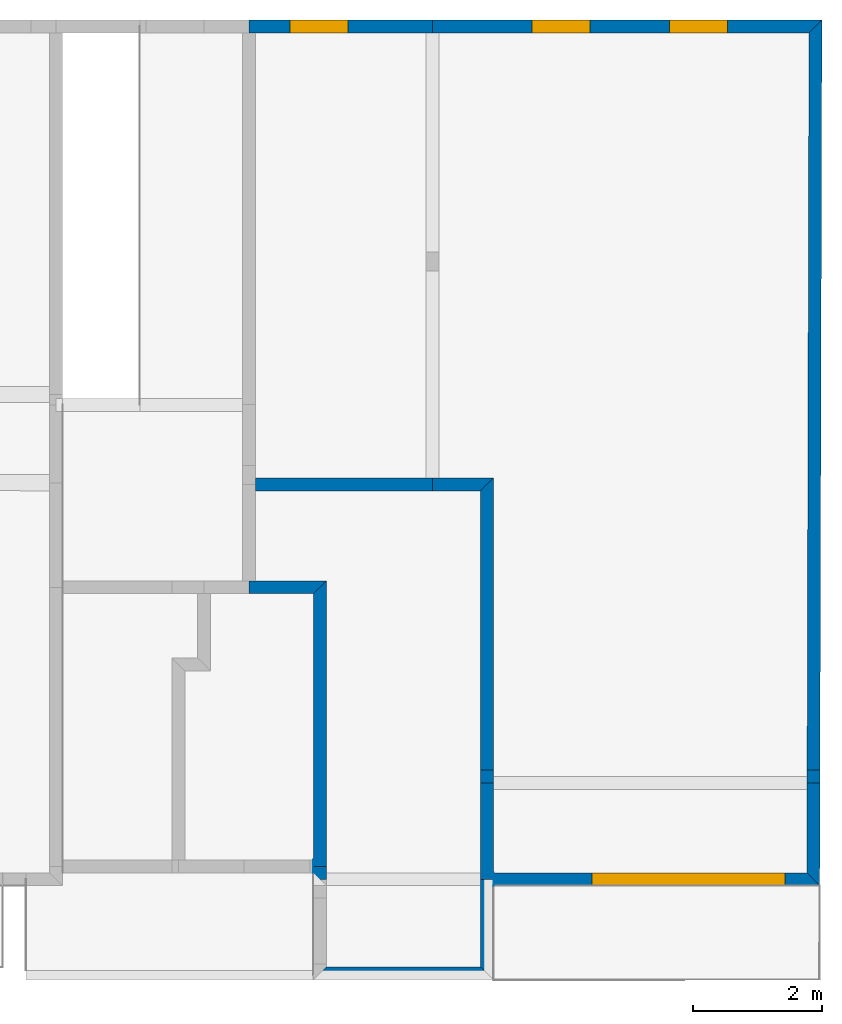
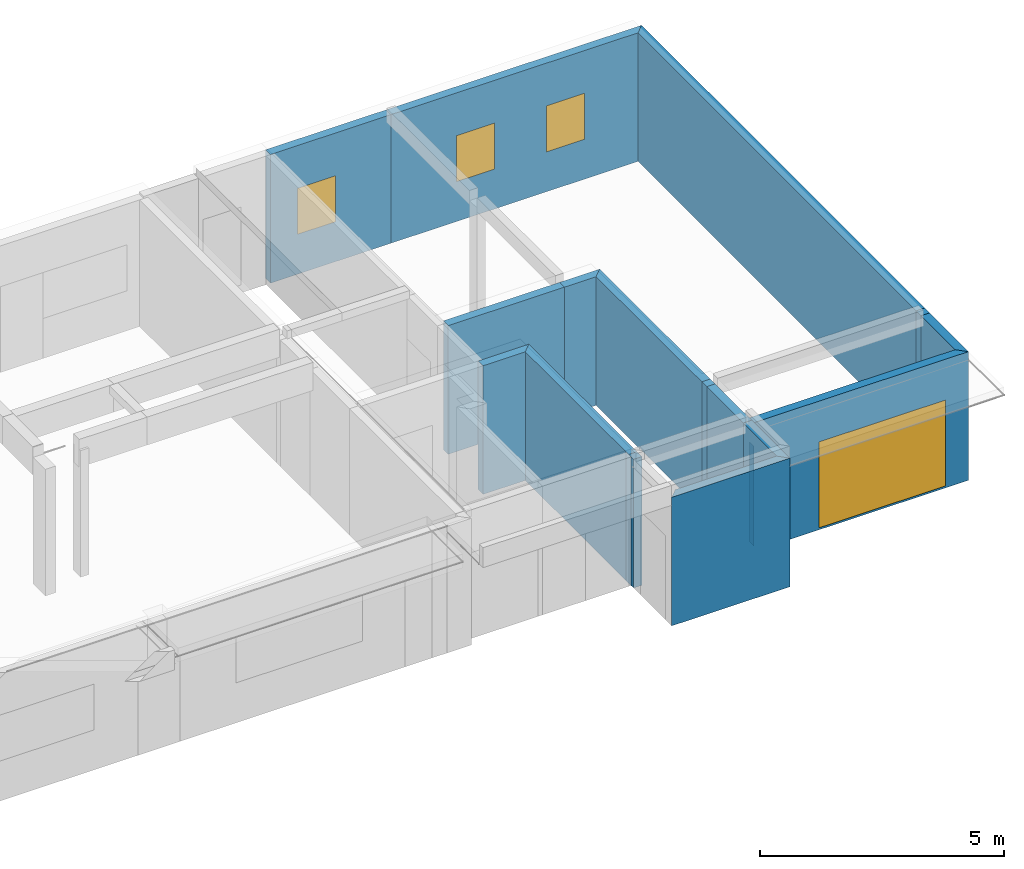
# One storey, part 16 of 17: 18 walls, 4 windows, 4 openings.
"""IFC2X3 building model written with IfcOpenShell, lengths in metres."""

from ifc_helpers import new_model, si_unit, direction, frame, origin_with_axes, origin_2d, place, context, subcontext, project, spatial, polyline, rectangle, outline, extrude, material, layer, layer_set, layer_usage, type_object, element, fill, save


model = new_model("IFC2X3")

# Units and contexts
model_context = context("Model", 3, precision=0.0001, world=origin_with_axes(), true_north=direction((0.0, 1.0)))
plan_context = context("Plan", 2, precision=0.0001, world=origin_with_axes(), true_north=direction((0.0, 1.0)))
body_context = subcontext(model_context, "Body", "Model", "MODEL_VIEW")
ifc_project = project(units=[si_unit("MASSUNIT", "GRAM", prefix="KILO"), si_unit("AREAUNIT", "SQUARE_METRE"), si_unit("LENGTHUNIT", "METRE"), si_unit("VOLUMEUNIT", "CUBIC_METRE")], contexts=[plan_context, model_context])

# Site, building, storey
site_placement = place(None, origin_with_axes())
site = spatial("IfcSite", under=ifc_project, at=site_placement, Name="$", CompositionType="ELEMENT")
building_placement = place(site_placement, origin_with_axes())
building = spatial("IfcBuilding", under=site, at=building_placement, Name="Classeur ENS Ensemble", CompositionType="ELEMENT")
storey_placement = place(building_placement, frame((-20.30778888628, -1.812671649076, 0.0), z_axis=(0.0, 0.0, 1.0), x_axis=(1.0, 0.0, 0.0)))
storey = spatial("IfcBuildingStorey", under=building, at=storey_placement, Name="001 RdC", CompositionType="ELEMENT", Elevation=0.0)

# Walls
ifc_material_1 = material(Name="voile BA 20 cm")
ifc_layer_1 = layer(ifc_material_1, 0.2000000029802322)
ifc_layer_set_1 = layer_set([ifc_layer_1], Name="voile BA 20 cm+")
ifc_layer_usage_1 = layer_usage(ifc_layer_set_1, "AXIS2", "POSITIVE", -0.1000000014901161)
wall_type = type_object("IfcWallType", PredefinedType="STANDARD")
wall_1_placement = place(storey_placement, frame((43.15502864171, -11.56732835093, -0.119999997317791), z_axis=(0.0, 0.0, 1.0), x_axis=(0.002544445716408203, 0.9999967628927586, 0.0)))
element("IfcWall", 1, at=wall_1_placement, inside=storey, type_object=wall_type, material=ifc_layer_usage_1, Name="voile BA 20 cm", context=body_context, shape_type="SweptSolid", held_by="IfcProductRepresentation", body=[
    extrude(outline(polyline([(0.09974587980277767, 0.1000000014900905), (0.09974587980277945, 0.1000000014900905), (0.09974587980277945, 0.1000000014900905), (1.499601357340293, 0.1000000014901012), (1.499601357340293, 0.1000000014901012), (1.499601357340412, 0.1000000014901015), (1.499601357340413, -0.1000000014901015), (1.499601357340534, -0.1000000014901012), (1.499601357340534, -0.1000000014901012), (-0.09974587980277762, -0.1000000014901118), (-0.09974587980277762, -0.1000000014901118), (-0.09974587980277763, -0.1000000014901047), (0.09974587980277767, 0.1000000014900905)])), origin_with_axes(), (0.0, 0.0, 1.0), 3.220000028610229),
])
ifc_material_2 = material(Name="voile BA 20 cm")
ifc_layer_2 = layer(ifc_material_2, 0.2000000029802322)
ifc_layer_set_2 = layer_set([ifc_layer_2], Name="voile BA 20 cm+")
ifc_layer_usage_2 = layer_usage(ifc_layer_set_2, "AXIS2", "POSITIVE", -0.1000000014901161)
wall_2_placement = place(storey_placement, frame((38.08329531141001, -11.56732835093, 0.0), z_axis=(0.0, 0.0, 1.0), x_axis=(1.0, 0.0, 0.0)))
element("IfcWall", 2, at=wall_2_placement, inside=storey, type_object=wall_type, material=ifc_layer_usage_2, Name="voile BA 20 cm", context=body_context, shape_type="SweptSolid", held_by="IfcProductRepresentation", body=[
    extrude(outline(polyline([(0.1000000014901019, 0.1000000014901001), (0.1000000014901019, 0.1000000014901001), (0.1000000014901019, 0.1000000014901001), (0.09999999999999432, 0.1000000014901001), (0.09999999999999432, 0.1000000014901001), (0.09999999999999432, 0.1000000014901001), (0.09999999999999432, -0.1000000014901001), (0.09999999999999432, -0.1000000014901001), (0.09999999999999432, -0.1000000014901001), (0.1000000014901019, -0.1000000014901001), (0.1000000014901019, -0.1000000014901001), (0.1000000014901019, -0.1000000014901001), (0.1000000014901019, 0.1000000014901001)])), origin_with_axes(), (0.0, 0.0, 1.0), 2.5),
])
ifc_material_3 = material(Name="voile BA 20 cm")
ifc_layer_3 = layer(ifc_material_3, 0.2000000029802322)
ifc_layer_set_3 = layer_set([ifc_layer_3], Name="voile BA 20 cm+")
ifc_layer_usage_3 = layer_usage(ifc_layer_set_3, "AXIS2", "POSITIVE", -0.1000000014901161)
wall_3_placement = place(storey_placement, frame((38.08329531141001, -13.03232835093, -0.119999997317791), z_axis=(0.0, 0.0, 1.0), x_axis=(0.0, 1.0, 0.0)))
element("IfcWall", 3, at=wall_3_placement, inside=storey, type_object=wall_type, material=ifc_layer_usage_3, Name="voile BA 20 cm", context=body_context, shape_type="SweptSolid", held_by="IfcProductRepresentation", body=[
    extrude(outline(polyline([(0.1000000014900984, 0.1000000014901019), (0.1000000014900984, 0.1000000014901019), (0.1000000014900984, 0.1000000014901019), (1.465, 0.1000000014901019), (1.465, 0.1000000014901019), (1.465, 0.1000000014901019), (1.465, -0.1000000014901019), (1.3649999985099, -0.1000000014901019), (1.3649999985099, -0.1000000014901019), (-0.1000000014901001, -0.1000000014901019), (-0.1000000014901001, -0.1000000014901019), (-0.1000000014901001, -0.1000000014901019), (0.1000000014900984, 0.1000000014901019)])), origin_with_axes(), (0.0, 0.0, 1.0), 3.220000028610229),
])
ifc_material_4 = material(Name="voile BA 20 cm")
ifc_layer_4 = layer(ifc_material_4, 0.2000000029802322)
ifc_layer_set_4 = layer_set([ifc_layer_4], Name="voile BA 20 cm+")
ifc_layer_usage_4 = layer_usage(ifc_layer_set_4, "AXIS2", "POSITIVE", -0.1000000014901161)
wall_4_placement = place(storey_placement, frame((35.48329531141, -13.03232835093, -0.119999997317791), z_axis=(0.0, 0.0, 1.0), x_axis=(1.0, 0.0, 0.0)))
element("IfcWall", 4, at=wall_4_placement, inside=storey, type_object=wall_type, material=ifc_layer_usage_4, Name="voile BA 20 cm", context=body_context, shape_type="SweptSolid", held_by="IfcProductRepresentation", body=[
    extrude(outline(polyline([(0.1000000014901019, 0.1000000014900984), (0.1000000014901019, 0.1000000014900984), (0.1000000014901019, 0.1000000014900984), (2.4999999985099, 0.1000000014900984), (2.4999999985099, 0.1000000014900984), (2.4999999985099, 0.1000000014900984), (2.700000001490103, -0.1000000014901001), (2.700000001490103, -0.1000000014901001), (2.700000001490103, -0.1000000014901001), (-0.1000000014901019, -0.1000000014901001), (-0.1000000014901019, -0.1000000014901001), (-0.1000000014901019, -0.1000000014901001), (0.1000000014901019, 0.1000000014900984)])), origin_with_axes(), (0.0, 0.0, 1.0), 3.220000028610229),
])

# Wall, opening, window
ifc_material_5 = material(Name="voile BA 20 cm")
ifc_layer_5 = layer(ifc_material_5, 0.2000000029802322)
ifc_layer_set_5 = layer_set([ifc_layer_5], Name="voile BA 20 cm+")
ifc_layer_usage_5 = layer_usage(ifc_layer_set_5, "AXIS2", "POSITIVE", -0.1000000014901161)
wall_5_placement = place(storey_placement, frame((34.38329531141, 1.692671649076, -0.119999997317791), z_axis=(0.0, 0.0, 1.0), x_axis=(0.9999999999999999, 0.0, 0.0)))
wall_5 = element("IfcWall", 5, at=wall_5_placement, inside=storey, type_object=wall_type, material=ifc_layer_usage_5, Name="voile BA 20 cm", context=body_context, shape_type="SweptSolid", held_by="IfcProductRepresentation", body=[
    extrude(outline(polyline([(0.0, 0.1000000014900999), (0.0, 0.1000000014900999), (0.0, 0.1000000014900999), (2.849999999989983, 0.1000000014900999), (2.849999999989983, 0.1000000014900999), (2.849999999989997, 0.1000000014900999), (2.849999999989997, -0.1000000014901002), (2.849999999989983, -0.1000000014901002), (2.849999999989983, -0.1000000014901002), (0.1000000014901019, -0.1000000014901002), (0.1000000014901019, -0.1000000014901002), (0.0, -0.1000000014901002), (0.0, 0.1000000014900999)])), origin_with_axes(), (0.0, 0.0, 1.0), 3.220000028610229),
])
opening_1_placement = place(wall_5_placement, frame((1.088367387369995, 0.1000000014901, 0.999999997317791), z_axis=(0.0, 0.0, 1.0), x_axis=(1.0, 0.0, 0.0)))
opening_1 = element("IfcOpeningElement", 6, at=opening_1_placement, cuts=wall_5, Name="BL 90 x 115", context=body_context, shape_type="SweptSolid", held_by="IfcProductRepresentation", body=[
    extrude(rectangle(XDim=0.8999999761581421, YDim=1.149999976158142, at=origin_2d()), frame((0.0, 0.0, 0.574999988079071), z_axis=(0.0, -1.0, 0.0), x_axis=(1.0, 0.0, 0.0)), (0.0, 0.0, 1.0), 0.2000000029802),
])
window_1_placement = place(opening_1_placement, origin_with_axes())
window_1 = element("IfcWindow", 7, at=window_1_placement, inside=storey, Name="BL 90 x 115", OverallHeight=1.149999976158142, OverallWidth=0.8999999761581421, context=body_context, shape_type="SweptSolid", held_by="IfcProductRepresentation", body=[
    extrude(rectangle(XDim=0.8999999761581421, YDim=1.149999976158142, at=origin_2d()), frame((0.0, 0.0, 0.574999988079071), z_axis=(0.0, -1.0, 0.0), x_axis=(1.0, 0.0, 0.0)), (0.0, 0.0, 1.0), 0.2000000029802),
])
fill(opening_1, window_1)

# Walls
ifc_material_6 = material(Name="voile BA 20 cm")
ifc_layer_6 = layer(ifc_material_6, 0.2000000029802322)
ifc_layer_set_6 = layer_set([ifc_layer_6], Name="voile BA 20 cm+")
ifc_layer_usage_6 = layer_usage(ifc_layer_set_6, "AXIS2", "POSITIVE", -0.1000000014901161)
wall_6_placement = place(storey_placement, frame((38.08329531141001, -11.56732835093, -0.119999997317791), z_axis=(0.0, 0.0, 1.0), x_axis=(0.0, 1.0, 0.0)))
element("IfcWall", 8, at=wall_6_placement, inside=storey, type_object=wall_type, material=ifc_layer_usage_6, Name="voile BA 20 cm", context=body_context, shape_type="SweptSolid", held_by="IfcProductRepresentation", body=[
    extrude(outline(polyline([(0.0, 0.1000000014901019), (0.0, 0.1000000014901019), (0.0, 0.1000000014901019), (1.49959650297, 0.1000000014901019), (1.49959650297, 0.1000000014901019), (1.49959650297, 0.1000000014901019), (1.49959650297, -0.1000000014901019), (1.49959650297, -0.1000000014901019), (1.49959650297, -0.1000000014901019), (0.1000000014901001, -0.1000000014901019), (0.1000000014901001, -0.1000000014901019), (0.0, -0.1000000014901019), (0.0, 0.1000000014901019)])), origin_with_axes(), (0.0, 0.0, 1.0), 3.220000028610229),
])
ifc_material_7 = material(Name="voile BA 20 cm")
ifc_layer_7 = layer(ifc_material_7, 0.2000000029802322)
ifc_layer_set_7 = layer_set([ifc_layer_7], Name="voile BA 20 cm+")
ifc_layer_usage_7 = layer_usage(ifc_layer_set_7, "AXIS2", "POSITIVE", -0.1000000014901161)
wall_7_placement = place(storey_placement, frame((34.38329531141, -5.427328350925, -0.119999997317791), z_axis=(0.0, 0.0, 1.0), x_axis=(1.0, 0.0, 0.0)))
element("IfcWall", 9, at=wall_7_placement, inside=storey, type_object=wall_type, material=ifc_layer_usage_7, Name="voile BA 20 cm", context=body_context, shape_type="SweptSolid", held_by="IfcProductRepresentation", body=[
    extrude(outline(polyline([(0.1000000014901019, 0.1000000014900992), (0.1000000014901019, 0.1000000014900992), (0.1000000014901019, 0.1000000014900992), (2.84999999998, 0.1000000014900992), (2.84999999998, 0.1000000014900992), (2.84999999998, 0.1000000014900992), (2.84999999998, -0.1000000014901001), (2.84999999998, -0.1000000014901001), (2.84999999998, -0.1000000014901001), (0.1000000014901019, -0.1000000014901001), (0.1000000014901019, -0.1000000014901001), (0.1000000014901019, -0.1000000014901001), (0.1000000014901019, 0.1000000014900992)])), origin_with_axes(), (0.0, 0.0, 1.0), 3.220000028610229),
])
ifc_material_8 = material(Name="voile BA 20 cm")
ifc_layer_8 = layer(ifc_material_8, 0.2000000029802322)
ifc_layer_set_8 = layer_set([ifc_layer_8], Name="voile BA 20 cm+")
ifc_layer_usage_8 = layer_usage(ifc_layer_set_8, "AXIS2", "POSITIVE", -0.1000000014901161)
wall_8_placement = place(storey_placement, frame((35.48329531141, -11.36732835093, -0.119999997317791), z_axis=(0.0, 0.0, 1.0), x_axis=(0.0, 1.0, 0.0)))
element("IfcWall", 10, at=wall_8_placement, inside=storey, type_object=wall_type, material=ifc_layer_usage_8, Name="voile BA 20 cm", context=body_context, shape_type="SweptSolid", held_by="IfcProductRepresentation", body=[
    extrude(outline(polyline([(0.0, 0.1000000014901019), (0.1000000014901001, 0.1000000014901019), (0.1000000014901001, 0.1000000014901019), (4.2399999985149, 0.1000000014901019), (4.2399999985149, 0.1000000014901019), (4.2399999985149, 0.1000000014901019), (4.4400000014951, -0.1000000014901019), (4.4400000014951, -0.1000000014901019), (4.4400000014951, -0.1000000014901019), (0.0, -0.1000000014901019), (0.0, -0.1000000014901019), (0.0, -0.1000000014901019), (0.0, 0.1000000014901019)])), origin_with_axes(), (0.0, 0.0, 1.0), 3.220000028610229),
])
ifc_material_9 = material(Name="voile BA 20 cm")
ifc_layer_9 = layer(ifc_material_9, 0.2000000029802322)
ifc_layer_set_9 = layer_set([ifc_layer_9], Name="voile BA 20 cm+")
ifc_layer_usage_9 = layer_usage(ifc_layer_set_9, "AXIS2", "POSITIVE", -0.1000000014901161)
wall_9_placement = place(storey_placement, frame((43.15935421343, -9.867328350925, -0.119999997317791), z_axis=(0.0, 0.0, 1.0), x_axis=(0.00254444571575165, 0.9999967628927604, 0.0)))
element("IfcWall", 11, at=wall_9_placement, inside=storey, type_object=wall_type, material=ifc_layer_usage_9, Name="voile BA 20 cm", context=body_context, shape_type="SweptSolid", held_by="IfcProductRepresentation", body=[
    extrude(outline(polyline([(7.19910242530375e-17, 0.1000000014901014), (-5.67531590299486e-14, 0.1000000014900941), (-5.67531590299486e-14, 0.1000000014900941), (11.45978265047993, 0.1000000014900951), (11.45978265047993, 0.1000000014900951), (11.45978265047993, 0.1000000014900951), (11.66029219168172, -0.1000000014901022), (11.66029219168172, -0.1000000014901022), (11.66029219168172, -0.1000000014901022), (5.497680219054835e-14, -0.1000000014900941), (5.497680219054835e-14, -0.1000000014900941), (-7.19910242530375e-17, -0.1000000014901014), (7.19910242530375e-17, 0.1000000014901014)])), origin_with_axes(), (0.0, 0.0, 1.0), 3.220000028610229),
])
ifc_material_10 = material(Name="voile BA 20 cm")
ifc_layer_10 = layer(ifc_material_10, 0.2000000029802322)
ifc_layer_set_10 = layer_set([ifc_layer_10], Name="voile BA 20 cm+")
ifc_layer_usage_10 = layer_usage(ifc_layer_set_10, "AXIS2", "POSITIVE", -0.1000000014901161)
wall_10_placement = place(storey_placement, frame((38.08329531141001, -9.867328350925, -0.119999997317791), z_axis=(0.0, 0.0, 1.0), x_axis=(0.0, 1.0, 0.0)))
element("IfcWall", 12, at=wall_10_placement, inside=storey, type_object=wall_type, material=ifc_layer_usage_10, Name="voile BA 20 cm", context=body_context, shape_type="SweptSolid", held_by="IfcProductRepresentation", body=[
    extrude(outline(polyline([(0.0, 0.1000000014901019), (0.0, 0.1000000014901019), (0.0, 0.1000000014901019), (4.339999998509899, 0.1000000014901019), (4.339999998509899, 0.1000000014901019), (4.339999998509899, 0.1000000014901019), (4.540000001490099, -0.1000000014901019), (4.540000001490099, -0.1000000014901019), (4.540000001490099, -0.1000000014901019), (0.0, -0.1000000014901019), (0.0, -0.1000000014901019), (0.0, -0.1000000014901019), (0.0, 0.1000000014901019)])), origin_with_axes(), (0.0, 0.0, 1.0), 3.220000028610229),
])
ifc_material_11 = material(Name="voile BA 20 cm")
ifc_layer_11 = layer(ifc_material_11, 0.2000000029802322)
ifc_layer_set_11 = layer_set([ifc_layer_11], Name="voile BA 20 cm+")
ifc_layer_usage_11 = layer_usage(ifc_layer_set_11, "AXIS2", "POSITIVE", -0.1000000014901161)
wall_11_placement = place(storey_placement, frame((37.23329531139, -5.427328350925, -0.119999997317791), z_axis=(0.0, 0.0, 1.0), x_axis=(1.0, 0.0, 0.0)))
element("IfcWall", 13, at=wall_11_placement, inside=storey, type_object=wall_type, material=ifc_layer_usage_11, Name="voile BA 20 cm", context=body_context, shape_type="SweptSolid", held_by="IfcProductRepresentation", body=[
    extrude(outline(polyline([(0.0, 0.1000000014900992), (0.0, 0.1000000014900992), (0.0, 0.1000000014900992), (0.9500000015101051, 0.1000000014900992), (0.9500000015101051, 0.1000000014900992), (0.9500000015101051, 0.1000000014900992), (0.7499999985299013, -0.1000000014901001), (0.7499999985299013, -0.1000000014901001), (0.7499999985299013, -0.1000000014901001), (0.0, -0.1000000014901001), (0.0, -0.1000000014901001), (0.0, -0.1000000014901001), (0.0, 0.1000000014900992)])), origin_with_axes(), (0.0, 0.0, 1.0), 3.220000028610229),
])

# Wall, openings, windows
ifc_material_12 = material(Name="voile BA 20 cm")
ifc_layer_12 = layer(ifc_material_12, 0.2000000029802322)
ifc_layer_set_12 = layer_set([ifc_layer_12], Name="voile BA 20 cm+")
ifc_layer_usage_12 = layer_usage(ifc_layer_set_12, "AXIS2", "POSITIVE", -0.1000000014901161)
wall_12_placement = place(storey_placement, frame((37.2332953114, 1.692671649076, -0.119999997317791), z_axis=(0.0, 0.0, 1.0), x_axis=(1.0, -1.679277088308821e-13, 0.0)))
wall_12 = element("IfcWall", 14, at=wall_12_placement, inside=storey, type_object=wall_type, material=ifc_layer_usage_12, Name="voile BA 20 cm", context=body_context, shape_type="SweptSolid", held_by="IfcProductRepresentation", body=[
    extrude(outline(polyline([(-2.581916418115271e-15, 0.1000000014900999), (-1.679277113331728e-14, 0.1000000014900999), (-1.679277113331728e-14, 0.1000000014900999), (6.055727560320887, 0.1000000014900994), (6.055727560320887, 0.1000000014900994), (6.055727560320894, 0.1000000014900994), (5.855218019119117, -0.1000000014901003), (5.855218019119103, -0.1000000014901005), (5.855218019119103, -0.1000000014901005), (1.679277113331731e-14, -0.1000000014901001), (1.679277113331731e-14, -0.1000000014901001), (2.581916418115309e-15, -0.1000000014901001), (-2.581916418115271e-15, 0.1000000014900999)])), origin_with_axes(), (0.0, 0.0, 1.0), 3.220000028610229),
])
opening_2_placement = place(wall_12_placement, frame((2.002129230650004, 0.1000000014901, 0.999999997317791), z_axis=(0.0, 0.0, 1.0), x_axis=(1.0, 0.0, 0.0)))
opening_2 = element("IfcOpeningElement", 15, at=opening_2_placement, cuts=wall_12, Name="BL 90 x 115", context=body_context, shape_type="SweptSolid", held_by="IfcProductRepresentation", body=[
    extrude(rectangle(XDim=0.8999999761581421, YDim=1.149999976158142, at=origin_2d()), frame((0.0, 0.0, 0.574999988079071), z_axis=(0.0, -1.0, 0.0), x_axis=(1.0, 0.0, 0.0)), (0.0, 0.0, 1.0), 0.2000000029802),
])
opening_3_placement = place(wall_12_placement, frame((4.137470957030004, 0.1000000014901, 0.999999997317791), z_axis=(0.0, 0.0, 1.0), x_axis=(1.0, 0.0, 0.0)))
opening_3 = element("IfcOpeningElement", 16, at=opening_3_placement, cuts=wall_12, Name="BL 90 x 115", context=body_context, shape_type="SweptSolid", held_by="IfcProductRepresentation", body=[
    extrude(rectangle(XDim=0.8999999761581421, YDim=1.149999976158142, at=origin_2d()), frame((0.0, 0.0, 0.574999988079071), z_axis=(0.0, -1.0, 0.0), x_axis=(1.0, 0.0, 0.0)), (0.0, 0.0, 1.0), 0.2000000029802),
])
window_2_placement = place(opening_2_placement, origin_with_axes())
window_2 = element("IfcWindow", 17, at=window_2_placement, inside=storey, Name="BL 90 x 115", OverallHeight=1.149999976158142, OverallWidth=0.8999999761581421, context=body_context, shape_type="SweptSolid", held_by="IfcProductRepresentation", body=[
    extrude(rectangle(XDim=0.8999999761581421, YDim=1.149999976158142, at=origin_2d()), frame((0.0, 0.0, 0.574999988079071), z_axis=(0.0, -1.0, 0.0), x_axis=(1.0, 0.0, 0.0)), (0.0, 0.0, 1.0), 0.2000000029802),
])
fill(opening_2, window_2)
window_3_placement = place(opening_3_placement, origin_with_axes())
window_3 = element("IfcWindow", 18, at=window_3_placement, inside=storey, Name="BL 90 x 115", OverallHeight=1.149999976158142, OverallWidth=0.8999999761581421, context=body_context, shape_type="SweptSolid", held_by="IfcProductRepresentation", body=[
    extrude(rectangle(XDim=0.8999999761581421, YDim=1.149999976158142, at=origin_2d()), frame((0.0, 0.0, 0.574999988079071), z_axis=(0.0, -1.0, 0.0), x_axis=(1.0, 0.0, 0.0)), (0.0, 0.0, 1.0), 0.2000000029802),
])
fill(opening_3, window_3)

# Wall, opening, window
ifc_material_13 = material(Name="voile BA 20 cm")
ifc_layer_13 = layer(ifc_material_13, 0.2000000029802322)
ifc_layer_set_13 = layer_set([ifc_layer_13], Name="voile BA 20 cm+")
ifc_layer_usage_13 = layer_usage(ifc_layer_set_13, "AXIS2", "POSITIVE", -0.1000000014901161)
wall_13_placement = place(storey_placement, frame((38.18329531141, -11.56732835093, -0.119999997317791), z_axis=(0.0, 0.0, 1.0), x_axis=(1.0, 0.0, 0.0)))
wall_13 = element("IfcWall", 19, at=wall_13_placement, inside=storey, type_object=wall_type, material=ifc_layer_usage_13, Name="voile BA 20 cm", context=body_context, shape_type="SweptSolid", held_by="IfcProductRepresentation", body=[
    extrude(outline(polyline([(0.0, 0.1000000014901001), (0.0, 0.1000000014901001), (0.0, 0.1000000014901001), (4.871987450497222, 0.1000000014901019), (4.871987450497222, 0.1000000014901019), (4.87198745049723, 0.1000000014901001), (5.071479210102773, -0.1000000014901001), (5.071479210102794, -0.1000000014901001), (5.071479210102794, -0.1000000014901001), (0.0, -0.1000000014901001), (0.0, -0.1000000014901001), (0.0, -0.1000000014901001), (0.0, 0.1000000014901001)])), origin_with_axes(), (0.0, 0.0, 1.0), 3.220000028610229),
])
opening_4_placement = place(wall_13_placement, frame((3.031749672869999, 0.1000000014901, 0.04999999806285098), z_axis=(0.0, 0.0, 1.0), x_axis=(1.0, 0.0, 0.0)))
opening_4 = element("IfcOpeningElement", 20, at=opening_4_placement, cuts=wall_13, Name="BL 300 x 215", context=body_context, shape_type="SweptSolid", held_by="IfcProductRepresentation", body=[
    extrude(rectangle(XDim=3.0, YDim=2.150000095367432, at=origin_2d()), frame((0.0, 0.0, 1.075000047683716), z_axis=(0.0, -1.0, 0.0), x_axis=(1.0, 0.0, 0.0)), (0.0, 0.0, 1.0), 0.2000000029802),
])
window_4_placement = place(opening_4_placement, origin_with_axes())
window_4 = element("IfcWindow", 21, at=window_4_placement, inside=storey, Name="BL 300 x 215", OverallHeight=2.150000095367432, OverallWidth=3.0, context=body_context, shape_type="SweptSolid", held_by="IfcProductRepresentation", body=[
    extrude(rectangle(XDim=3.0, YDim=2.150000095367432, at=origin_2d()), frame((0.0, 0.0, 1.075000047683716), z_axis=(0.0, -1.0, 0.0), x_axis=(1.0, 0.0, 0.0)), (0.0, 0.0, 1.0), 0.2000000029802),
])
fill(opening_4, window_4)

# Walls
ifc_material_14 = material(Name="voile BA 20 cm")
ifc_layer_14 = layer(ifc_material_14, 0.2000000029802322)
ifc_layer_set_14 = layer_set([ifc_layer_14], Name="voile BA 20 cm+")
ifc_layer_usage_14 = layer_usage(ifc_layer_set_14, "AXIS2", "POSITIVE", -0.1000000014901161)
wall_14_placement = place(storey_placement, frame((43.15884429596, -10.06773184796, -0.119999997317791), z_axis=(0.0, 0.0, 1.0), x_axis=(0.002544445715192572, 0.9999967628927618, 0.0)))
element("IfcWall", 22, at=wall_14_placement, inside=storey, type_object=wall_type, material=ifc_layer_usage_14, Name="voile BA 20 cm", context=body_context, shape_type="SweptSolid", held_by="IfcProductRepresentation", body=[
    extrude(outline(polyline([(9.130608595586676e-16, 0.1000000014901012), (1.199285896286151e-13, 0.1000000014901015), (1.199285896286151e-13, 0.1000000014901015), (0.2004041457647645, 0.1000000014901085), (0.2004041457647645, 0.1000000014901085), (0.2004041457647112, 0.1000000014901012), (0.2004041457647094, -0.1000000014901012), (0.2004041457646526, -0.1000000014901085), (0.2004041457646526, -0.1000000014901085), (-1.217230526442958e-13, -0.1000000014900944), (-1.217230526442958e-13, -0.1000000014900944), (-9.130608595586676e-16, -0.1000000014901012), (9.130608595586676e-16, 0.1000000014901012)])), origin_with_axes(), (0.0, 0.0, 1.0), 3.220000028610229),
])
ifc_material_15 = material(Name="voile BA 20 cm")
ifc_layer_15 = layer(ifc_material_15, 0.2000000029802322)
ifc_layer_set_15 = layer_set([ifc_layer_15], Name="voile BA 20 cm+")
ifc_layer_usage_15 = layer_usage(ifc_layer_set_15, "AXIS2", "POSITIVE", -0.1000000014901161)
wall_15_placement = place(storey_placement, frame((38.08329531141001, -10.06773184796, -0.119999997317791), z_axis=(0.0, 0.0, 1.0), x_axis=(0.0, 0.9999999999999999, 0.0)))
element("IfcWall", 23, at=wall_15_placement, inside=storey, type_object=wall_type, material=ifc_layer_usage_15, Name="voile BA 20 cm", context=body_context, shape_type="SweptSolid", held_by="IfcProductRepresentation", body=[
    extrude(outline(polyline([(0.0, 0.1000000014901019), (0.0, 0.1000000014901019), (0.0, 0.1000000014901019), (0.2004034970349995, 0.1000000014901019), (0.2004034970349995, 0.1000000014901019), (0.2004034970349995, 0.1000000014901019), (0.2004034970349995, -0.1000000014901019), (0.2004034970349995, -0.1000000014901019), (0.2004034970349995, -0.1000000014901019), (0.0, -0.1000000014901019), (0.0, -0.1000000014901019), (0.0, -0.1000000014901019), (0.0, 0.1000000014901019)])), origin_with_axes(), (0.0, 0.0, 1.0), 3.220000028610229),
])
ifc_material_16 = material(Name="voile BA 20 cm")
ifc_layer_16 = layer(ifc_material_16, 0.2000000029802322)
ifc_layer_set_16 = layer_set([ifc_layer_16], Name="voile BA 20 cm+")
ifc_layer_usage_16 = layer_usage(ifc_layer_set_16, "AXIS2", "POSITIVE", -0.1000000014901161)
wall_16_placement = place(storey_placement, frame((34.38329531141, -7.027328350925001, -0.119999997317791), z_axis=(0.0, 0.0, 1.0), x_axis=(1.0, 0.0, 0.0)))
element("IfcWall", 24, at=wall_16_placement, inside=storey, type_object=wall_type, material=ifc_layer_usage_16, Name="voile BA 20 cm", context=body_context, shape_type="SweptSolid", held_by="IfcProductRepresentation", body=[
    extrude(outline(polyline([(0.0, 0.1000000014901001), (0.1000000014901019, 0.1000000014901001), (0.1000000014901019, 0.1000000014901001), (1.200000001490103, 0.1000000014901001), (1.200000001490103, 0.1000000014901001), (1.200000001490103, 0.1000000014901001), (0.9999999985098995, -0.1000000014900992), (0.9999999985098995, -0.1000000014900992), (0.9999999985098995, -0.1000000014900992), (0.0, -0.1000000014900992), (0.0, -0.1000000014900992), (0.0, -0.1000000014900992), (0.0, 0.1000000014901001)])), origin_with_axes(), (0.0, 0.0, 1.0), 3.220000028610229),
])
ifc_material_17 = material(Name="voile BA 20 cm")
ifc_layer_17 = layer(ifc_material_17, 0.2000000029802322)
ifc_layer_set_17 = layer_set([ifc_layer_17], Name="voile BA 20 cm+")
ifc_layer_usage_17 = layer_usage(ifc_layer_set_17, "AXIS2", "POSITIVE", -0.1000000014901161)
wall_17_placement = place(storey_placement, frame((35.3832953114, -11.36732835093, -0.119999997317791), z_axis=(0.0, 0.0, 1.0), x_axis=(1.0, 0.0, 0.0)))
element("IfcWall", 25, at=wall_17_placement, inside=storey, type_object=wall_type, material=ifc_layer_usage_17, Name="voile BA 20 cm", context=body_context, shape_type="SweptSolid", held_by="IfcProductRepresentation", body=[
    extrude(outline(polyline([(0.0, 0.1000000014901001), (0.0, 0.1000000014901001), (0.0, 0.1000000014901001), (-1.480096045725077e-09, 0.1000000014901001), (-1.480096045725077e-09, 0.1000000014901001), (-1.480096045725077e-09, 0.1000000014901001), (-1.480096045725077e-09, -0.1000000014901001), (-1.480096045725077e-09, -0.1000000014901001), (-1.480096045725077e-09, -0.1000000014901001), (0.0, -0.1000000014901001), (0.0, -0.1000000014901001), (0.0, -0.1000000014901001), (0.0, 0.1000000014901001)])), origin_with_axes(), (0.0, 0.0, 1.0), 3.220000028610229),
])
ifc_material_18 = material(Name="voile BA 20 cm")
ifc_layer_18 = layer(ifc_material_18, 0.2000000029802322)
ifc_layer_set_18 = layer_set([ifc_layer_18], Name="voile BA 20 cm+")
ifc_layer_usage_18 = layer_usage(ifc_layer_set_18, "AXIS2", "POSITIVE", -0.1000000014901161)
wall_18_placement = place(storey_placement, frame((35.48329531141, -11.56732835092, -0.119999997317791), z_axis=(0.0, 0.0, 1.0), x_axis=(0.0, 1.0, 0.0)))
element("IfcWall", 26, at=wall_18_placement, inside=storey, type_object=wall_type, material=ifc_layer_usage_18, Name="voile BA 20 cm", context=body_context, shape_type="SweptSolid", held_by="IfcProductRepresentation", body=[
    extrude(outline(polyline([(0.0, 0.1000000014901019), (0.0, 0.1000000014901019), (0.0, 0.1000000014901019), (0.09999999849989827, 0.1000000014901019), (0.09999999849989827, 0.1000000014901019), (0.1999999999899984, 0.1000000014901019), (0.1999999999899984, -0.1000000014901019), (0.1999999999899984, -0.1000000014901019), (0.1999999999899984, -0.1000000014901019), (0.0, -0.1000000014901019), (0.0, -0.1000000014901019), (0.0, -0.1000000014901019), (0.0, 0.1000000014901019)])), origin_with_axes(), (0.0, 0.0, 1.0), 3.220000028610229),
])

save(model, "model.ifc")
